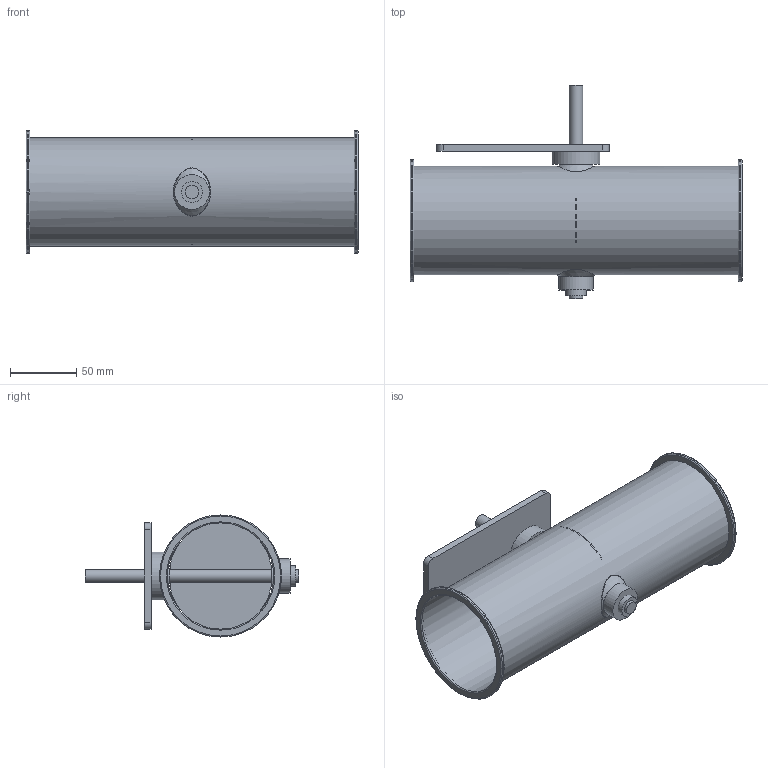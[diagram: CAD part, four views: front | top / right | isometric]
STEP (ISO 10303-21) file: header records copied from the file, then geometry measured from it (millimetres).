
FILE_DESCRIPTION(/* description */ (''),/* implementation_level */ '2;1');
FILE_NAME(/* name */ 'EA118-80B__80_L250_belimo_Typ_LM.stp',/* time_stamp */ '2017-12-05T12:04:32+01:00',/* author */ (''),/* organization */ (''),/* preprocessor_version */ 'ST-DEVELOPER v11',/* originating_system */ 'SIEMENS UGS NX 6.0',/* authorisation */ '');
FILE_SCHEMA (('CONFIG_CONTROL_DESIGN'));
Length unit declared in the file: millimetre
Products named in the file (1): gars1E3Bhieb
Bounding box: 250 x 161 x 92 mm (x, y, z)
Volume: 145279.3 mm3; surface area: 180213 mm2
Topology: 8 solids, 8 shells, 74 faces, 155 edges, 105 vertices
Faces by surface type: plane 30, cylinder 26, torus 10, cone 4, bspline 4
Full cylindrical faces by diameter (mm): 4.1 x2, 10 x3, 15 x3, 15.85 x2, 16 x2, 24 x2, 26 x1, 36 x1, 80 x1, 81.6 x1, 92 x2
Entity records: 2456 total; most frequent: CARTESIAN_POINT 991, DIRECTION 298, ORIENTED_EDGE 196, EDGE_LOOP 140, AXIS2_PLACEMENT_3D 137, FACE_BOUND 126, EDGE_CURVE 98, VERTEX_POINT 86
